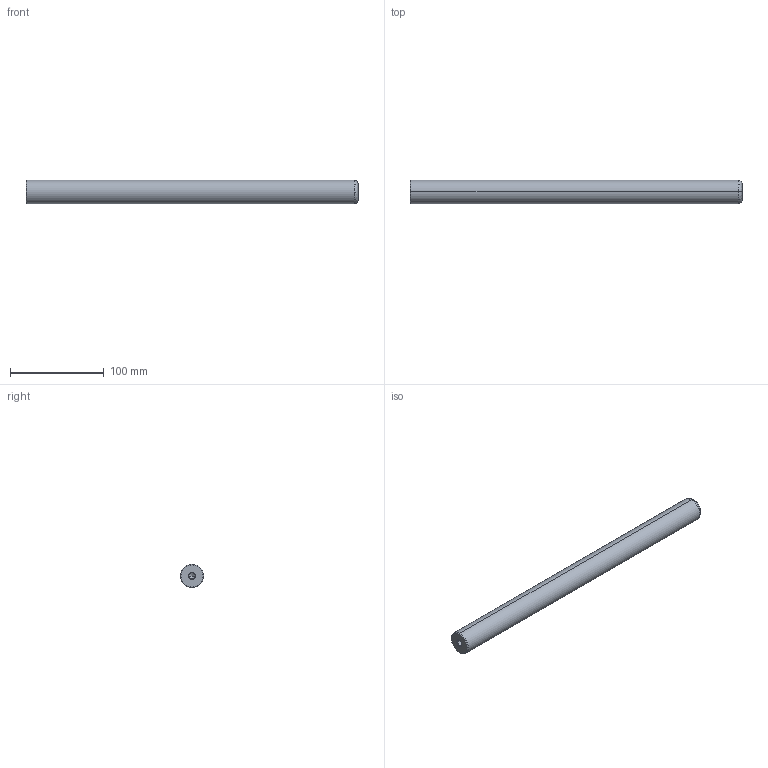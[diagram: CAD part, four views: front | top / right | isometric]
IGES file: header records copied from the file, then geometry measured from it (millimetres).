
Start section: START RECORD GO HERE.
Global section: file name: 720-25x355.igs; native system: DASSAULT SYSTEMES CATIA V5 R20 - www.3ds.com; preprocessor: CATIA Version 5 Release 20 ; author: Utente; organization: NB04-ASUS; date: 20210101.133806; units: millimetre
Bounding box: 355 x 25 x 25 mm (x, y, z)
Surface area: 29692.3 mm2 (no closed solid volume)
Topology: 0 solids, 0 shells, 22 faces, 120 edges, 116 vertices
Faces by surface type: revolution 20, plane 2
